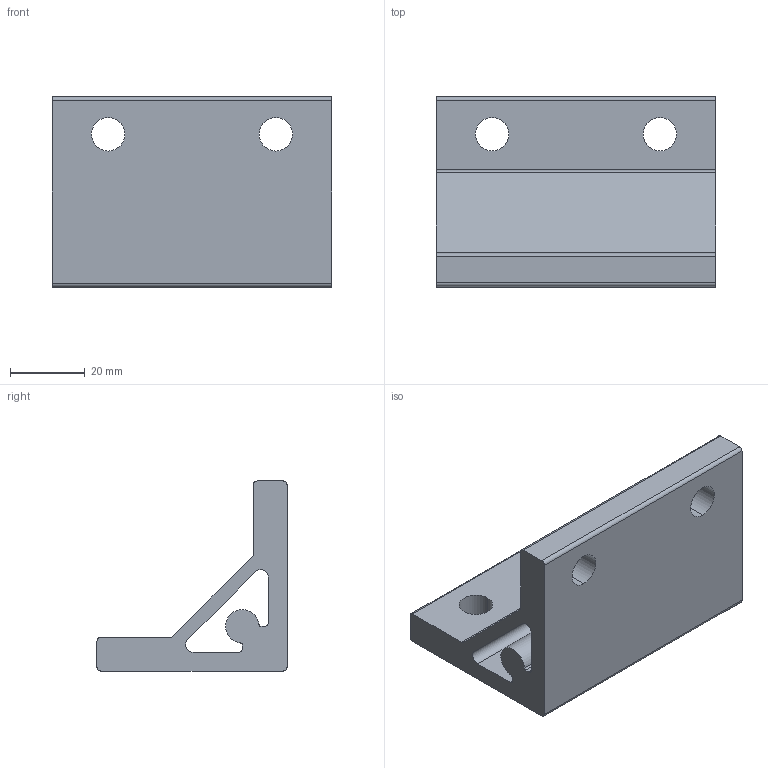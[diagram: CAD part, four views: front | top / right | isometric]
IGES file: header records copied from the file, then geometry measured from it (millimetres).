
Start section: SolidWorks IGES file using analytic representation for surfaces
Global section: file name: C:\Documents and Settings\Administrator\デスクトップ\指定保存後4回目\SolidWorks\SF\SF40・45\Bracket\ハードブラケットL4590\SFJ-N08.IGS,41HSolidWorks 2006 by; native system: SolidWorks Corporation; preprocessor: SolidWorks 2006 by SolidWorks Corporation; author: Administrator; date: 061218.093814; units: millimetre
Bounding box: 75 x 51 x 51 mm (x, y, z)
Volume: 63059.9 mm3; surface area: 22913 mm2
Topology: 1 solids, 1 shells, 36 faces, 102 edges, 68 vertices
Faces by surface type: revolution 22, plane 14
